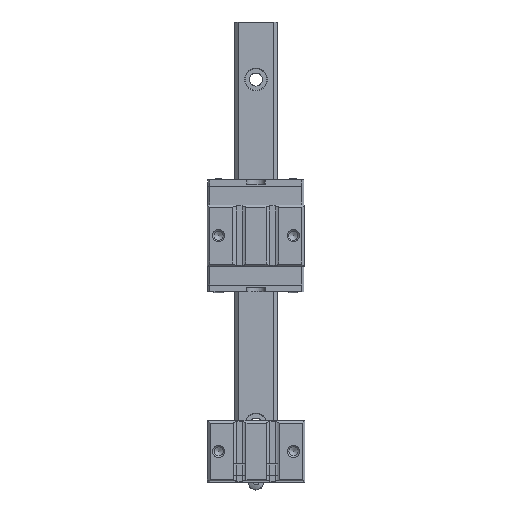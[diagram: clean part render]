
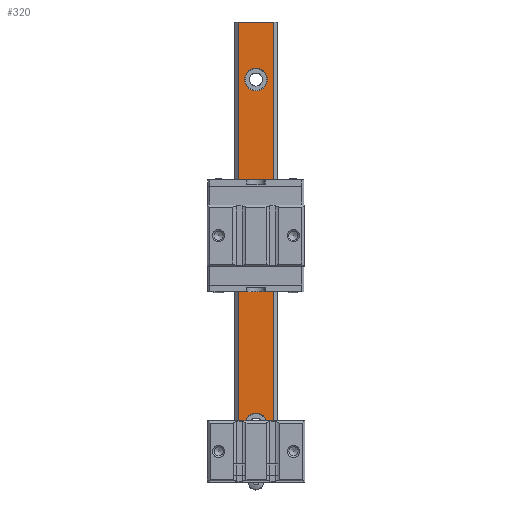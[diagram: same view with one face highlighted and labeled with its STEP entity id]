
A CAD part, top view. The second image highlights one B-rep face of the part: STEP entity #320.
In plain terms, the highlighted planar face has unit normal (0, 0, 1).
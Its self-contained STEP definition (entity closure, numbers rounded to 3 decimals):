
#320 = ADVANCED_FACE( '', ( #775, #776, #777, #778 ), #779, .T. );
#775 = FACE_BOUND( '', #1422, .T. );
#776 = FACE_BOUND( '', #1423, .T. );
#777 = FACE_BOUND( '', #1424, .T. );
#778 = FACE_OUTER_BOUND( '', #1425, .T. );
#779 = PLANE( '', #1426 );
#1422 = EDGE_LOOP( '', ( #2261 ) );
#1423 = EDGE_LOOP( '', ( #2262 ) );
#1424 = EDGE_LOOP( '', ( #2263 ) );
#1425 = EDGE_LOOP( '', ( #2264, #2265, #2266, #2267 ) );
#1426 = AXIS2_PLACEMENT_3D( '', #2268, #2269, #2270 );
#2261 = ORIENTED_EDGE( '', *, *, #3686, .T. );
#2262 = ORIENTED_EDGE( '', *, *, #3634, .T. );
#2263 = ORIENTED_EDGE( '', *, *, #3687, .T. );
#2264 = ORIENTED_EDGE( '', *, *, #3688, .F. );
#2265 = ORIENTED_EDGE( '', *, *, #3689, .F. );
#2266 = ORIENTED_EDGE( '', *, *, #3690, .T. );
#2267 = ORIENTED_EDGE( '', *, *, #3691, .T. );
#2268 = CARTESIAN_POINT( '', ( -6.15, 160., 6.5 ) );
#2269 = DIRECTION( '', ( 0., 0., 1. ) );
#2270 = DIRECTION( '', ( 1., 0., 0. ) );
#3634 = EDGE_CURVE( '', #4321, #4321, #4322, .F. );
#3686 = EDGE_CURVE( '', #4407, #4407, #4408, .F. );
#3687 = EDGE_CURVE( '', #4409, #4409, #4410, .F. );
#3688 = EDGE_CURVE( '', #4411, #4412, #4413, .T. );
#3689 = EDGE_CURVE( '', #4414, #4411, #4415, .T. );
#3690 = EDGE_CURVE( '', #4414, #4416, #4417, .T. );
#3691 = EDGE_CURVE( '', #4416, #4412, #4418, .T. );
#4321 = VERTEX_POINT( '', #5282 );
#4322 = CIRCLE( '', #5283, 3.95 );
#4407 = VERTEX_POINT( '', #5413 );
#4408 = CIRCLE( '', #5414, 3.95 );
#4409 = VERTEX_POINT( '', #5415 );
#4410 = CIRCLE( '', #5416, 3.95 );
#4411 = VERTEX_POINT( '', #5417 );
#4412 = VERTEX_POINT( '', #5418 );
#4413 = LINE( '', #5419, #5420 );
#4414 = VERTEX_POINT( '', #5421 );
#4415 = LINE( '', #5422, #5423 );
#4416 = VERTEX_POINT( '', #5424 );
#4417 = LINE( '', #5425, #5426 );
#4418 = LINE( '', #5427, #5428 );
#5282 = CARTESIAN_POINT( '', ( 3.95, 80., 6.5 ) );
#5283 = AXIS2_PLACEMENT_3D( '', #6437, #6438, #6439 );
#5413 = CARTESIAN_POINT( '', ( 3.95, 140., 6.5 ) );
#5414 = AXIS2_PLACEMENT_3D( '', #6504, #6505, #6506 );
#5415 = CARTESIAN_POINT( '', ( 3.95, 20., 6.5 ) );
#5416 = AXIS2_PLACEMENT_3D( '', #6507, #6508, #6509 );
#5417 = CARTESIAN_POINT( '', ( 6.15, 0., 6.5 ) );
#5418 = CARTESIAN_POINT( '', ( -6.15, 0., 6.5 ) );
#5419 = CARTESIAN_POINT( '', ( -6.15, 0., 6.5 ) );
#5420 = VECTOR( '', #6510, 1000. );
#5421 = CARTESIAN_POINT( '', ( 6.15, 160., 6.5 ) );
#5422 = CARTESIAN_POINT( '', ( 6.15, 160., 6.5 ) );
#5423 = VECTOR( '', #6511, 1000. );
#5424 = CARTESIAN_POINT( '', ( -6.15, 160., 6.5 ) );
#5425 = CARTESIAN_POINT( '', ( -6.15, 160., 6.5 ) );
#5426 = VECTOR( '', #6512, 1000. );
#5427 = CARTESIAN_POINT( '', ( -6.15, 160., 6.5 ) );
#5428 = VECTOR( '', #6513, 1000. );
#6437 = CARTESIAN_POINT( '', ( 0., 80., 6.5 ) );
#6438 = DIRECTION( '', ( 0., 0., 1. ) );
#6439 = DIRECTION( '', ( 1., 0., 0. ) );
#6504 = CARTESIAN_POINT( '', ( 0., 140., 6.5 ) );
#6505 = DIRECTION( '', ( 0., 0., 1. ) );
#6506 = DIRECTION( '', ( 1., 0., 0. ) );
#6507 = CARTESIAN_POINT( '', ( 0., 20., 6.5 ) );
#6508 = DIRECTION( '', ( 0., 0., 1. ) );
#6509 = DIRECTION( '', ( 1., 0., 0. ) );
#6510 = DIRECTION( '', ( -1., 0., 0. ) );
#6511 = DIRECTION( '', ( 0., -1., 0. ) );
#6512 = DIRECTION( '', ( -1., 0., 0. ) );
#6513 = DIRECTION( '', ( 0., -1., 0. ) );
